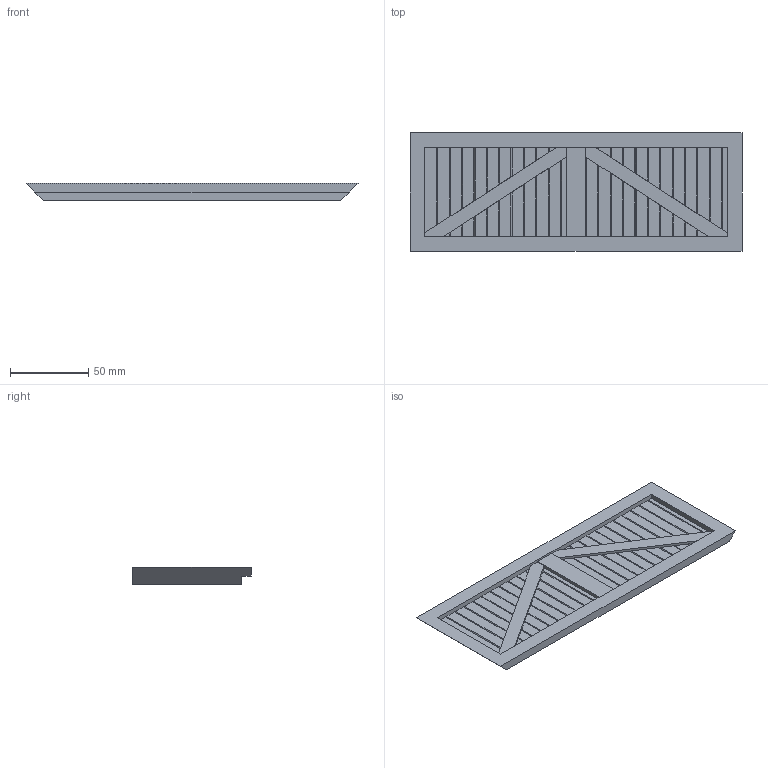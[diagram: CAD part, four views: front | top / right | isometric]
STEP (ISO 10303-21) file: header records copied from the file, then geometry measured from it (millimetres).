
FILE_DESCRIPTION (( 'STEP AP203' ), '1' );
FILE_NAME ('1x6 poplar Box back.STEP', '2018-03-02T19:47:04', ( '' ), ( '' ), 'SwSTEP 2.0', 'SolidWorks 2015', '' );
FILE_SCHEMA (( 'CONFIG_CONTROL_DESIGN' ));
Length unit declared in the file: inch
Products named in the file (1): 1x6 poplar Box back
Bounding box: 212.72 x 76.2 x 11.11 mm (x, y, z)
Volume: 132781 mm3; surface area: 40783.5 mm2
Topology: 1 solids, 1 shells, 146 faces, 429 edges, 286 vertices
Faces by surface type: plane 146
Entity records: 4832 total; most frequent: CARTESIAN_POINT 862, ORIENTED_EDGE 858, DIRECTION 723, EDGE_CURVE 429, VECTOR 429, LINE 429, VERTEX_POINT 286, EDGE_LOOP 147
